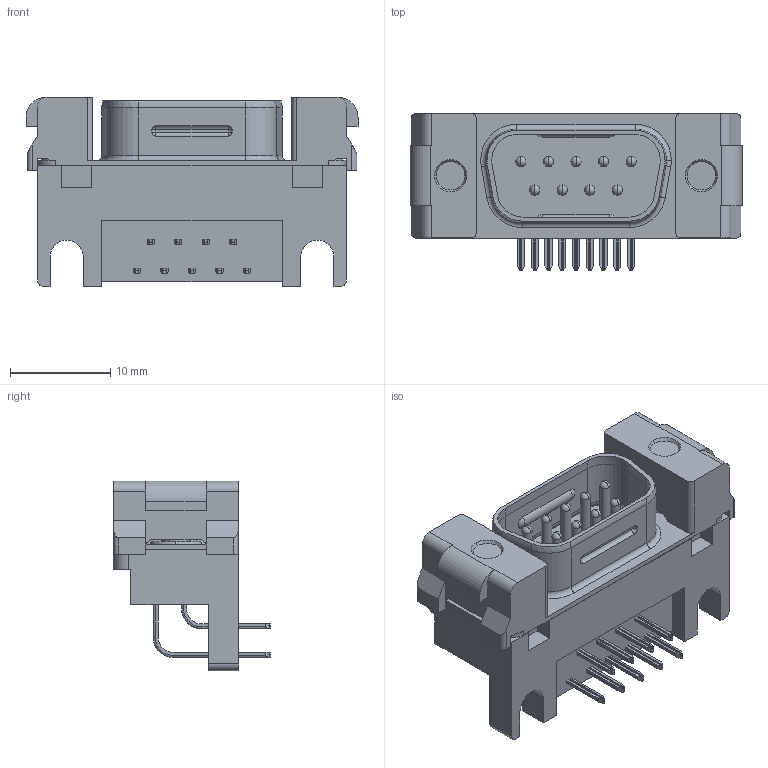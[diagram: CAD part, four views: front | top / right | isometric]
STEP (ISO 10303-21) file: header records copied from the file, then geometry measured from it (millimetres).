
FILE_DESCRIPTION (( 'STEP AP203' ), '1' );
FILE_NAME ('17LE-23090-27(D2C)-FA.STEP', '2022-01-24T11:14:15', ( '' ), ( '' ), 'SwSTEP 2.0', 'SolidWorks 2018', '' );
FILE_SCHEMA (( 'CONFIG_CONTROL_DESIGN' ));
Length unit declared in the file: millimetre
Products named in the file (1): 17LE-23090-27(D2C)-FA
Bounding box: 33.09 x 15.69 x 18.9 mm (x, y, z)
Volume: 3378.1 mm3; surface area: 3862.6 mm2
Topology: 1 solids, 3 shells, 759 faces, 2064 edges, 1309 vertices
Faces by surface type: plane 348, cylinder 291, torus 82, sphere 30, cone 8
Entity records: 24105 total; most frequent: CARTESIAN_POINT 4485, DIRECTION 4248, ORIENTED_EDGE 4060, EDGE_CURVE 2030, AXIS2_PLACEMENT_3D 1516, VERTEX_POINT 1305, VECTOR 1216, LINE 1216
